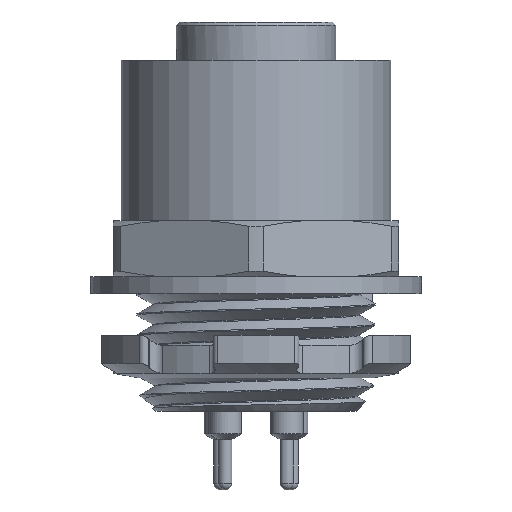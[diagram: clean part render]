
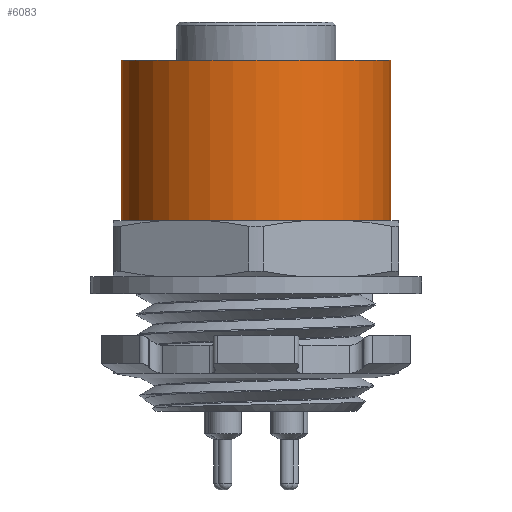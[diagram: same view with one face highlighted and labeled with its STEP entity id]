
A CAD part, front view. The second image highlights one B-rep face of the part: STEP entity #6083.
In plain terms, the highlighted cylindrical face has radius 12 mm (diameter 24 mm), a full revolution.
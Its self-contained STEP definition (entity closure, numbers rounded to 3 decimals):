
#74 = ORIENTED_EDGE ( 'NONE', *, *, #6132, .F. ) ;
#242 = CIRCLE ( 'NONE', #2477, 12. ) ;
#1254 = CARTESIAN_POINT ( 'NONE',  ( 0., 0., -17.7 ) ) ;
#1434 = ORIENTED_EDGE ( 'NONE', *, *, #2995, .T. ) ;
#1619 = DIRECTION ( 'NONE',  ( 0., 0., 1. ) ) ;
#1990 = CIRCLE ( 'NONE', #9827, 12. ) ;
#2118 = VERTEX_POINT ( 'NONE', #9294 ) ;
#2477 = AXIS2_PLACEMENT_3D ( 'NONE', #8714, #4771, #5770 ) ;
#2995 = EDGE_CURVE ( 'NONE', #2118, #2118, #1990, .T. ) ;
#3692 = FACE_OUTER_BOUND ( 'NONE', #5522, .T. ) ;
#3825 = FACE_OUTER_BOUND ( 'NONE', #9997, .T. ) ;
#3968 = DIRECTION ( 'NONE',  ( 1., 0., 0. ) ) ;
#4351 = VERTEX_POINT ( 'NONE', #9405 ) ;
#4771 = DIRECTION ( 'NONE',  ( 0., 0., 1. ) ) ;
#5522 = EDGE_LOOP ( 'NONE', ( #74 ) ) ;
#5770 = DIRECTION ( 'NONE',  ( 1., 0., 0. ) ) ;
#6083 = ADVANCED_FACE ( 'NONE', ( #3825, #3692 ), #10012, .T. ) ;
#6132 = EDGE_CURVE ( 'NONE', #4351, #4351, #242, .T. ) ;
#6791 = DIRECTION ( 'NONE',  ( 0., 0., 1. ) ) ;
#8714 = CARTESIAN_POINT ( 'NONE',  ( 0., 0., -3.4 ) ) ;
#9112 = DIRECTION ( 'NONE',  ( 1., 0., 0. ) ) ;
#9294 = CARTESIAN_POINT ( 'NONE',  ( 12., 0., -17.7 ) ) ;
#9405 = CARTESIAN_POINT ( 'NONE',  ( 12., 0., -3.4 ) ) ;
#9575 = AXIS2_PLACEMENT_3D ( 'NONE', #10267, #1619, #3968 ) ;
#9827 = AXIS2_PLACEMENT_3D ( 'NONE', #1254, #6791, #9112 ) ;
#9997 = EDGE_LOOP ( 'NONE', ( #1434 ) ) ;
#10012 = CYLINDRICAL_SURFACE ( 'NONE', #9575, 12. ) ;
#10267 = CARTESIAN_POINT ( 'NONE',  ( 0., 0., -3.4 ) ) ;
